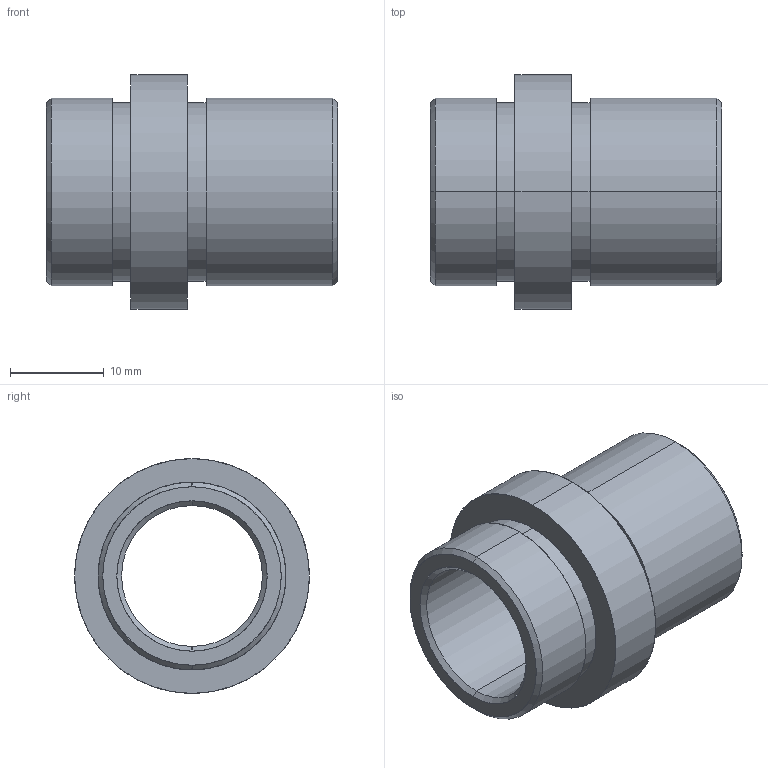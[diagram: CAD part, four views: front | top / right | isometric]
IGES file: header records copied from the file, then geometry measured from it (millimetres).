
Start section: SolidWorks IGES FILE using analytic representation for surfaces
Global section: file name: D:\zzzzz\Delta\D21\15\D21 - 15x22.IGS; native system: SolidWorks 2004 by SolidWorks Corporation; preprocessor: Version 5.3; author: Hkn; date: 080326.191429; units: millimetre
Bounding box: 31 x 25 x 25 mm (x, y, z)
Surface area: 4176.7 mm2 (no closed solid volume)
Topology: 0 solids, 0 shells, 26 faces, 464 edges, 464 vertices
Faces by surface type: revolution 20, bspline 6
